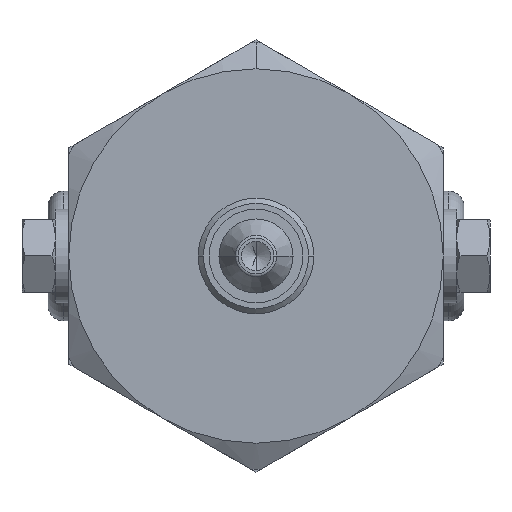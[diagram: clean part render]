
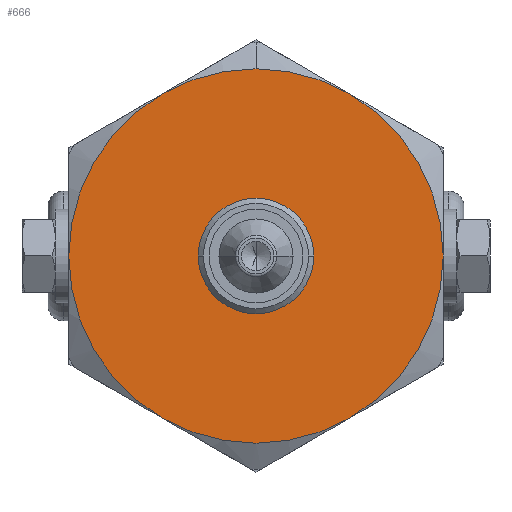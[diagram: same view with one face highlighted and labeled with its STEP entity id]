
A CAD part, front view. The second image highlights one B-rep face of the part: STEP entity #666.
In plain terms, the highlighted planar face has unit normal (0, -1, 0).
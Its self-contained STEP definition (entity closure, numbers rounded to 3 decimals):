
#35 = CIRCLE ( 'NONE', #3840, 4.5 ) ;
#61 = DIRECTION ( 'NONE',  ( 0., 0., 1. ) ) ;
#82 = ORIENTED_EDGE ( 'NONE', *, *, #3516, .T. ) ;
#87 = CARTESIAN_POINT ( 'NONE',  ( 0., 0., 0. ) ) ;
#122 = DIRECTION ( 'NONE',  ( 0., -1., 0. ) ) ;
#222 = EDGE_LOOP ( 'NONE', ( #82, #1684, #3217, #343, #1381, #2810, #2122 ) ) ;
#319 = VERTEX_POINT ( 'NONE', #1563 ) ;
#326 = DIRECTION ( 'NONE',  ( 0., 1., 0. ) ) ;
#343 = ORIENTED_EDGE ( 'NONE', *, *, #750, .T. ) ;
#372 = EDGE_CURVE ( 'NONE', #1871, #2163, #3598, .T. ) ;
#385 = DIRECTION ( 'NONE',  ( 0., 0., 1. ) ) ;
#445 = DIRECTION ( 'NONE',  ( 0., -1., 0. ) ) ;
#456 = VERTEX_POINT ( 'NONE', #3748 ) ;
#459 = CARTESIAN_POINT ( 'NONE',  ( 0., 0., 0. ) ) ;
#481 = CIRCLE ( 'NONE', #2358, 18. ) ;
#567 = CIRCLE ( 'NONE', #1460, 18. ) ;
#568 = AXIS2_PLACEMENT_3D ( 'NONE', #2727, #876, #3302 ) ;
#666 = ADVANCED_FACE ( 'NONE', ( #3493, #1766 ), #2922, .F. ) ;
#715 = CARTESIAN_POINT ( 'NONE',  ( 0., 0., 0. ) ) ;
#724 = EDGE_CURVE ( 'NONE', #456, #3345, #3363, .T. ) ;
#738 = DIRECTION ( 'NONE',  ( 0., 0., 1. ) ) ;
#740 = CARTESIAN_POINT ( 'NONE',  ( -9., 0., 15.588 ) ) ;
#750 = EDGE_CURVE ( 'NONE', #2065, #319, #481, .T. ) ;
#806 = DIRECTION ( 'NONE',  ( 0., 0., 1. ) ) ;
#876 = DIRECTION ( 'NONE',  ( 0., -1., 0. ) ) ;
#1036 = CARTESIAN_POINT ( 'NONE',  ( 0., 0., 0. ) ) ;
#1037 = CARTESIAN_POINT ( 'NONE',  ( 0., 0., 0. ) ) ;
#1057 = EDGE_CURVE ( 'NONE', #3345, #456, #35, .T. ) ;
#1128 = DIRECTION ( 'NONE',  ( 0., 0., 1. ) ) ;
#1175 = AXIS2_PLACEMENT_3D ( 'NONE', #1037, #2775, #2841 ) ;
#1381 = ORIENTED_EDGE ( 'NONE', *, *, #2101, .T. ) ;
#1431 = CARTESIAN_POINT ( 'NONE',  ( 0., 0., 0. ) ) ;
#1460 = AXIS2_PLACEMENT_3D ( 'NONE', #459, #122, #1639 ) ;
#1499 = CARTESIAN_POINT ( 'NONE',  ( -18., 0., 0. ) ) ;
#1563 = CARTESIAN_POINT ( 'NONE',  ( -9., 0., -15.588 ) ) ;
#1639 = DIRECTION ( 'NONE',  ( 0., 0., 1. ) ) ;
#1684 = ORIENTED_EDGE ( 'NONE', *, *, #372, .T. ) ;
#1714 = CIRCLE ( 'NONE', #568, 18. ) ;
#1744 = EDGE_LOOP ( 'NONE', ( #1825, #2533 ) ) ;
#1766 = FACE_OUTER_BOUND ( 'NONE', #222, .T. ) ;
#1802 = DIRECTION ( 'NONE',  ( 0., -1., 0. ) ) ;
#1824 = CARTESIAN_POINT ( 'NONE',  ( 0., 0., 0. ) ) ;
#1825 = ORIENTED_EDGE ( 'NONE', *, *, #724, .T. ) ;
#1871 = VERTEX_POINT ( 'NONE', #2495 ) ;
#1883 = CARTESIAN_POINT ( 'NONE',  ( 4.5, 0., 0. ) ) ;
#1899 = CARTESIAN_POINT ( 'NONE',  ( 0., 0., 0. ) ) ;
#1902 = DIRECTION ( 'NONE',  ( 0., -1., 0. ) ) ;
#2021 = CIRCLE ( 'NONE', #2899, 18. ) ;
#2061 = DIRECTION ( 'NONE',  ( 0., 0., -1. ) ) ;
#2065 = VERTEX_POINT ( 'NONE', #1499 ) ;
#2101 = EDGE_CURVE ( 'NONE', #319, #3497, #1714, .T. ) ;
#2122 = ORIENTED_EDGE ( 'NONE', *, *, #3755, .T. ) ;
#2163 = VERTEX_POINT ( 'NONE', #740 ) ;
#2280 = CIRCLE ( 'NONE', #3219, 18. ) ;
#2358 = AXIS2_PLACEMENT_3D ( 'NONE', #715, #445, #738 ) ;
#2485 = CARTESIAN_POINT ( 'NONE',  ( 18., 0., 0. ) ) ;
#2495 = CARTESIAN_POINT ( 'NONE',  ( 0., 0., 18. ) ) ;
#2503 = CARTESIAN_POINT ( 'NONE',  ( 9., 0., -15.588 ) ) ;
#2533 = ORIENTED_EDGE ( 'NONE', *, *, #1057, .T. ) ;
#2688 = DIRECTION ( 'NONE',  ( 0., -1., 0. ) ) ;
#2727 = CARTESIAN_POINT ( 'NONE',  ( 0., 0., 0. ) ) ;
#2775 = DIRECTION ( 'NONE',  ( 0., 1., 0. ) ) ;
#2810 = ORIENTED_EDGE ( 'NONE', *, *, #3280, .T. ) ;
#2841 = DIRECTION ( 'NONE',  ( -1., 0., 0. ) ) ;
#2854 = VERTEX_POINT ( 'NONE', #2485 ) ;
#2899 = AXIS2_PLACEMENT_3D ( 'NONE', #1899, #2915, #1128 ) ;
#2915 = DIRECTION ( 'NONE',  ( 0., -1., 0. ) ) ;
#2922 = PLANE ( 'NONE',  #3869 ) ;
#2926 = VERTEX_POINT ( 'NONE', #3727 ) ;
#3217 = ORIENTED_EDGE ( 'NONE', *, *, #3852, .T. ) ;
#3219 = AXIS2_PLACEMENT_3D ( 'NONE', #87, #2688, #2061 ) ;
#3280 = EDGE_CURVE ( 'NONE', #3497, #2854, #2280, .T. ) ;
#3302 = DIRECTION ( 'NONE',  ( 0., 0., 1. ) ) ;
#3345 = VERTEX_POINT ( 'NONE', #1883 ) ;
#3363 = CIRCLE ( 'NONE', #1175, 4.5 ) ;
#3493 = FACE_BOUND ( 'NONE', #1744, .T. ) ;
#3497 = VERTEX_POINT ( 'NONE', #2503 ) ;
#3516 = EDGE_CURVE ( 'NONE', #2926, #1871, #2021, .T. ) ;
#3521 = AXIS2_PLACEMENT_3D ( 'NONE', #3656, #1802, #61 ) ;
#3534 = DIRECTION ( 'NONE',  ( 0., 1., 0. ) ) ;
#3598 = CIRCLE ( 'NONE', #3659, 18. ) ;
#3621 = DIRECTION ( 'NONE',  ( -1., 0., 0. ) ) ;
#3646 = CIRCLE ( 'NONE', #3521, 18. ) ;
#3656 = CARTESIAN_POINT ( 'NONE',  ( 0., 0., 0. ) ) ;
#3659 = AXIS2_PLACEMENT_3D ( 'NONE', #1036, #1902, #385 ) ;
#3727 = CARTESIAN_POINT ( 'NONE',  ( 9., 0., 15.588 ) ) ;
#3748 = CARTESIAN_POINT ( 'NONE',  ( -4.5, 0., 0. ) ) ;
#3755 = EDGE_CURVE ( 'NONE', #2854, #2926, #3646, .T. ) ;
#3840 = AXIS2_PLACEMENT_3D ( 'NONE', #1824, #326, #3621 ) ;
#3852 = EDGE_CURVE ( 'NONE', #2163, #2065, #567, .T. ) ;
#3869 = AXIS2_PLACEMENT_3D ( 'NONE', #1431, #3534, #806 ) ;
